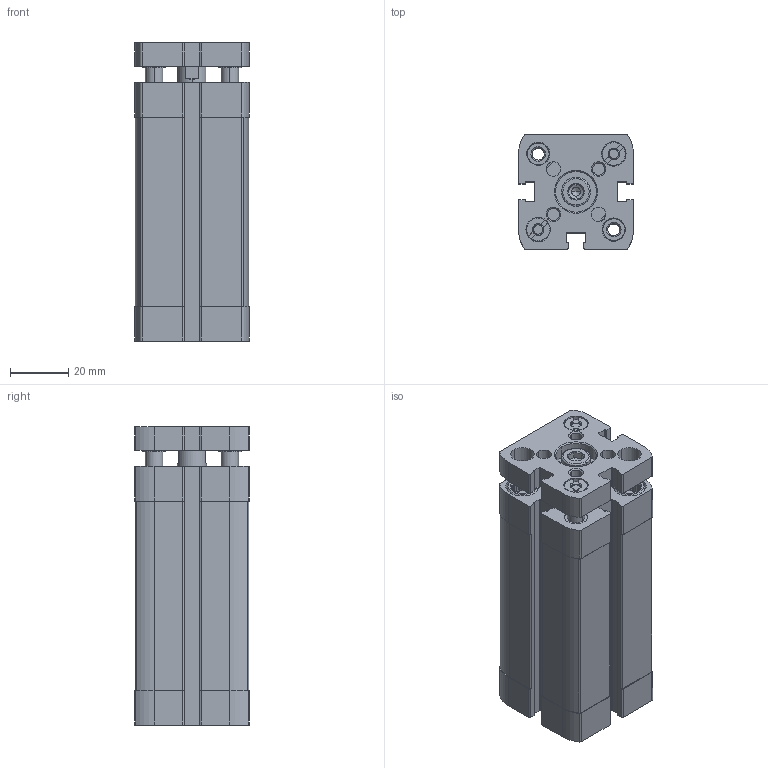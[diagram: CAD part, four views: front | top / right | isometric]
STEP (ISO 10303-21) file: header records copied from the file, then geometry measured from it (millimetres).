
FILE_DESCRIPTION (( 'STEP AP203' ), '1' );
FILE_NAME ('CCNG25-50.STEP', '2017-04-13T18:26:25', ( '' ), ( '' ), 'SwSTEP 2.0', 'SolidWorks 2016', '' );
FILE_SCHEMA (( 'CONFIG_CONTROL_DESIGN' ));
Length unit declared in the file: millimetre
Products named in the file (3): CCNG-25-50----(Z); CCNG-25-50--(KS); CCNG25-50
Assembly tree (2 placements, depth 2):
  CCNG25-50
    CCNG-25-50----(Z)
    CCNG-25-50--(KS)
Bounding box: 39.5 x 39.5 x 102.5 mm (x, y, z)
Volume: 108496.3 mm3; surface area: 46490.6 mm2
Topology: 2 solids, 6 shells, 598 faces, 1577 edges, 1027 vertices
Faces by surface type: plane 301, cylinder 214, cone 77, bspline 6
Entity records: 19190 total; most frequent: CARTESIAN_POINT 3740, DIRECTION 3267, ORIENTED_EDGE 3150, EDGE_CURVE 1575, AXIS2_PLACEMENT_3D 1228, VERTEX_POINT 1027, VECTOR 811, LINE 811
